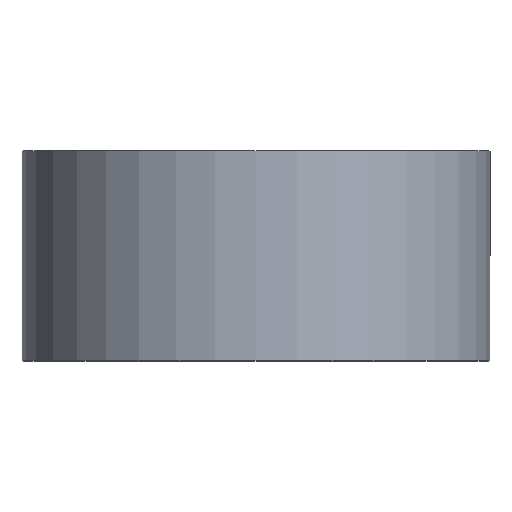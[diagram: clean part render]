
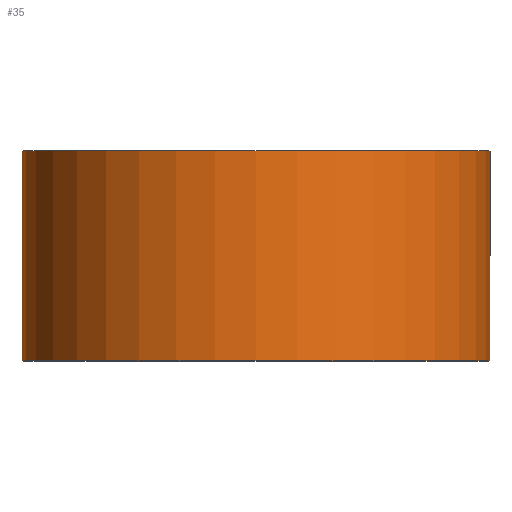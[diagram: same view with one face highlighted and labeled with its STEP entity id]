
A CAD part, top view. The second image highlights one B-rep face of the part: STEP entity #35.
In plain terms, the highlighted cylindrical face has radius 39 mm (diameter 78 mm), a partial arc.
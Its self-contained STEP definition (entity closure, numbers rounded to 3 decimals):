
#13 = VERTEX_POINT ( 'NONE', #135 ) ;
#20 = DIRECTION ( 'NONE',  ( -1., 0., 0. ) ) ;
#28 = DIRECTION ( 'NONE',  ( 0., 1., 0. ) ) ;
#34 = CIRCLE ( 'NONE', #254, 39. ) ;
#35 = ADVANCED_FACE ( 'NONE', ( #148 ), #104, .T. ) ;
#38 = VERTEX_POINT ( 'NONE', #93 ) ;
#48 = ORIENTED_EDGE ( 'NONE', *, *, #217, .T. ) ;
#73 = CARTESIAN_POINT ( 'NONE',  ( 0., 35., 0. ) ) ;
#76 = VERTEX_POINT ( 'NONE', #158 ) ;
#85 = EDGE_CURVE ( 'NONE', #136, #13, #34, .T. ) ;
#93 = CARTESIAN_POINT ( 'NONE',  ( 39., 0., 0. ) ) ;
#97 = CARTESIAN_POINT ( 'NONE',  ( -39., 35., 0. ) ) ;
#102 = EDGE_CURVE ( 'NONE', #76, #136, #219, .T. ) ;
#104 = CYLINDRICAL_SURFACE ( 'NONE', #126, 39. ) ;
#110 = DIRECTION ( 'NONE',  ( -1., 0., 0. ) ) ;
#126 = AXIS2_PLACEMENT_3D ( 'NONE', #300, #212, #110 ) ;
#129 = CARTESIAN_POINT ( 'NONE',  ( 0., 0., 0. ) ) ;
#131 = DIRECTION ( 'NONE',  ( 0., 1., 0. ) ) ;
#135 = CARTESIAN_POINT ( 'NONE',  ( 39., 35., 0. ) ) ;
#136 = VERTEX_POINT ( 'NONE', #97 ) ;
#148 = FACE_OUTER_BOUND ( 'NONE', #198, .T. ) ;
#158 = CARTESIAN_POINT ( 'NONE',  ( -39., 0., 0. ) ) ;
#168 = VECTOR ( 'NONE', #131, 1000. ) ;
#173 = ORIENTED_EDGE ( 'NONE', *, *, #102, .F. ) ;
#184 = EDGE_CURVE ( 'NONE', #76, #38, #270, .T. ) ;
#186 = AXIS2_PLACEMENT_3D ( 'NONE', #129, #206, #20 ) ;
#188 = ORIENTED_EDGE ( 'NONE', *, *, #85, .F. ) ;
#193 = ORIENTED_EDGE ( 'NONE', *, *, #184, .T. ) ;
#198 = EDGE_LOOP ( 'NONE', ( #193, #48, #188, #173 ) ) ;
#206 = DIRECTION ( 'NONE',  ( 0., 1., 0. ) ) ;
#212 = DIRECTION ( 'NONE',  ( 0., 1., 0. ) ) ;
#217 = EDGE_CURVE ( 'NONE', #38, #13, #257, .T. ) ;
#218 = CARTESIAN_POINT ( 'NONE',  ( -39., 0., 0. ) ) ;
#219 = LINE ( 'NONE', #218, #223 ) ;
#223 = VECTOR ( 'NONE', #285, 1000. ) ;
#254 = AXIS2_PLACEMENT_3D ( 'NONE', #73, #28, #265 ) ;
#257 = LINE ( 'NONE', #271, #168 ) ;
#265 = DIRECTION ( 'NONE',  ( -1., 0., 0. ) ) ;
#270 = CIRCLE ( 'NONE', #186, 39. ) ;
#271 = CARTESIAN_POINT ( 'NONE',  ( 39., 0., 0. ) ) ;
#285 = DIRECTION ( 'NONE',  ( 0., 1., 0. ) ) ;
#300 = CARTESIAN_POINT ( 'NONE',  ( 0., 0., 0. ) ) ;
